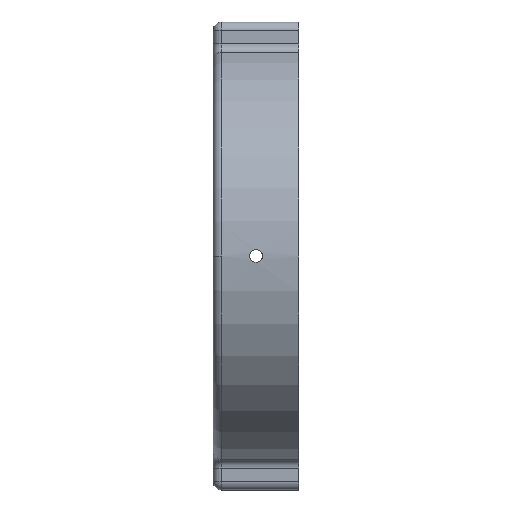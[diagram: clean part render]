
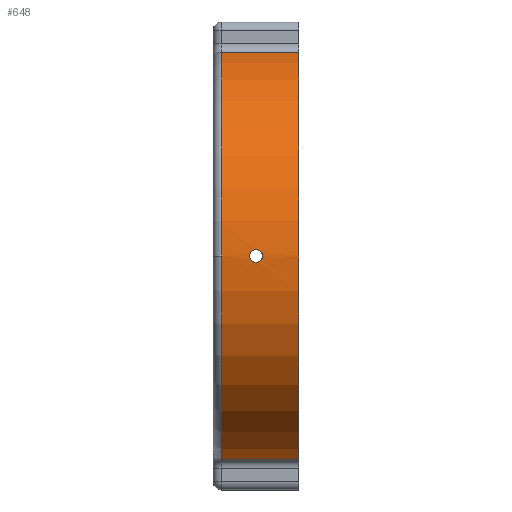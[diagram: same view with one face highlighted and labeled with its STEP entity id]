
A CAD part, left-side view. The second image highlights one B-rep face of the part: STEP entity #648.
In plain terms, the highlighted cylindrical face has radius 49 mm (diameter 98 mm), a partial arc.
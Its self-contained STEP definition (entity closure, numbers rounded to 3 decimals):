
#6 = CARTESIAN_POINT ( 'NONE',  ( -48.978, 10., -1.475 ) ) ;
#20 = FACE_OUTER_BOUND ( 'NONE', #483, .T. ) ;
#22 = CARTESIAN_POINT ( 'NONE',  ( -48.978, 10., 1.475 ) ) ;
#27 = EDGE_CURVE ( 'NONE', #1283, #1424, #598, .T. ) ;
#57 = CARTESIAN_POINT ( 'NONE',  ( -48.999, 8.564, 0.387 ) ) ;
#61 = CARTESIAN_POINT ( 'NONE',  ( -49., 18., 0. ) ) ;
#77 = CARTESIAN_POINT ( 'NONE',  ( -48.994, 8.72, -0.74 ) ) ;
#88 = CARTESIAN_POINT ( 'NONE',  ( -48.996, 8.675, -0.655 ) ) ;
#90 = CARTESIAN_POINT ( 'NONE',  ( -48.979, 10.382, 1.428 ) ) ;
#101 = CARTESIAN_POINT ( 'NONE',  ( -48.983, 10.739, 1.28 ) ) ;
#103 = VECTOR ( 'NONE', #761, 1000. ) ;
#169 = LINE ( 'NONE', #771, #103 ) ;
#197 = ORIENTED_EDGE ( 'NONE', *, *, #1604, .T. ) ;
#200 = ORIENTED_EDGE ( 'NONE', *, *, #27, .T. ) ;
#217 = CARTESIAN_POINT ( 'NONE',  ( -48.982, 10.654, -1.326 ) ) ;
#230 = CARTESIAN_POINT ( 'NONE',  ( -48.995, 8.711, 0.742 ) ) ;
#233 = CARTESIAN_POINT ( 'NONE',  ( -48.999, 11.436, 0.387 ) ) ;
#243 = CARTESIAN_POINT ( 'NONE',  ( -49., 11.465, -0.193 ) ) ;
#252 = CARTESIAN_POINT ( 'NONE',  ( -48.992, 11.179, 0.907 ) ) ;
#279 = AXIS2_PLACEMENT_3D ( 'NONE', #1104, #1113, #1235 ) ;
#396 = CARTESIAN_POINT ( 'NONE',  ( 0., 18., 0. ) ) ;
#403 = CARTESIAN_POINT ( 'NONE',  ( -12.131, 0., -47.475 ) ) ;
#422 = CARTESIAN_POINT ( 'NONE',  ( -12.131, 0., 47.475 ) ) ;
#424 = AXIS2_PLACEMENT_3D ( 'NONE', #396, #1119, #1554 ) ;
#437 = EDGE_CURVE ( 'NONE', #1424, #1283, #511, .T. ) ;
#462 = CYLINDRICAL_SURFACE ( 'NONE', #1858, 49. ) ;
#479 = LINE ( 'NONE', #1241, #1778 ) ;
#483 = EDGE_LOOP ( 'NONE', ( #197, #1841, #595, #574, #1063 ) ) ;
#487 = CARTESIAN_POINT ( 'NONE',  ( 0., 0., 0. ) ) ;
#506 = CARTESIAN_POINT ( 'NONE',  ( -48.978, 10., 1.475 ) ) ;
#511 = B_SPLINE_CURVE_WITH_KNOTS ( 'NONE', 3,
 ( #818, #1114, #1380, #1572, #524, #1106, #1865, #791, #230, #57, #1705, #941, #1398, #1408, #1096, #88, #77, #1276, #673, #1267, #514, #533, #971, #643 ),
 .UNSPECIFIED., .F., .F.,
 ( 4, 2, 2, 2, 2, 2, 2, 2, 2, 2, 2, 4 ),
 ( 0.007, 0.007, 0.008, 0.008, 0.009, 0.009, 0.01, 0.01, 0.01, 0.01, 0.011, 0.012 ),
 .UNSPECIFIED. ) ;
#514 = CARTESIAN_POINT ( 'NONE',  ( -48.983, 9.259, -1.289 ) ) ;
#524 = CARTESIAN_POINT ( 'NONE',  ( -48.983, 9.261, 1.28 ) ) ;
#533 = CARTESIAN_POINT ( 'NONE',  ( -48.979, 9.614, -1.436 ) ) ;
#539 = VERTEX_POINT ( 'NONE', #422 ) ;
#566 = ORIENTED_EDGE ( 'NONE', *, *, #437, .T. ) ;
#574 = ORIENTED_EDGE ( 'NONE', *, *, #662, .T. ) ;
#595 = ORIENTED_EDGE ( 'NONE', *, *, #813, .T. ) ;
#598 = B_SPLINE_CURVE_WITH_KNOTS ( 'NONE', 3,
 ( #699, #1098, #961, #1108, #820, #217, #1553, #655, #1118, #1421, #973, #1565, #1707, #243, #1697, #675, #233, #1848, #252, #1410, #831, #101, #1676, #1287, #90, #1269, #1575, #506 ),
 .UNSPECIFIED., .F., .F.,
 ( 4, 2, 2, 2, 2, 2, 2, 2, 2, 2, 2, 2, 2, 4 ),
 ( 0.002, 0.003, 0.003, 0.003, 0.003, 0.004, 0.004, 0.005, 0.005, 0.006, 0.006, 0.006, 0.007, 0.007 ),
 .UNSPECIFIED. ) ;
#643 = CARTESIAN_POINT ( 'NONE',  ( -48.978, 10., -1.475 ) ) ;
#648 = ADVANCED_FACE ( 'NONE', ( #1797, #20 ), #462, .T. ) ;
#655 = CARTESIAN_POINT ( 'NONE',  ( -48.986, 10.9, -1.173 ) ) ;
#662 = EDGE_CURVE ( 'NONE', #1301, #1561, #169, .T. ) ;
#673 = CARTESIAN_POINT ( 'NONE',  ( -48.99, 8.89, -0.976 ) ) ;
#675 = CARTESIAN_POINT ( 'NONE',  ( -49., 11.475, 0.193 ) ) ;
#699 = CARTESIAN_POINT ( 'NONE',  ( -48.978, 10., -1.475 ) ) ;
#761 = DIRECTION ( 'NONE',  ( 0., -1., 0. ) ) ;
#771 = CARTESIAN_POINT ( 'NONE',  ( -12.131, 20., -47.475 ) ) ;
#791 = CARTESIAN_POINT ( 'NONE',  ( -48.992, 8.821, 0.907 ) ) ;
#813 = EDGE_CURVE ( 'NONE', #987, #1301, #1105, .T. ) ;
#818 = CARTESIAN_POINT ( 'NONE',  ( -48.978, 10., 1.475 ) ) ;
#820 = CARTESIAN_POINT ( 'NONE',  ( -48.98, 10.475, -1.4 ) ) ;
#831 = CARTESIAN_POINT ( 'NONE',  ( -48.986, 10.899, 1.173 ) ) ;
#885 = DIRECTION ( 'NONE',  ( 0., -1., 0. ) ) ;
#924 = CARTESIAN_POINT ( 'NONE',  ( 0., 20., 0. ) ) ;
#927 = AXIS2_PLACEMENT_3D ( 'NONE', #487, #1677, #1802 ) ;
#941 = CARTESIAN_POINT ( 'NONE',  ( -49., 8.525, -0.099 ) ) ;
#961 = CARTESIAN_POINT ( 'NONE',  ( -48.978, 10.194, -1.465 ) ) ;
#971 = CARTESIAN_POINT ( 'NONE',  ( -48.978, 9.808, -1.475 ) ) ;
#973 = CARTESIAN_POINT ( 'NONE',  ( -48.995, 11.289, -0.743 ) ) ;
#987 = VERTEX_POINT ( 'NONE', #61 ) ;
#1000 = EDGE_CURVE ( 'NONE', #1561, #539, #1172, .T. ) ;
#1063 = ORIENTED_EDGE ( 'NONE', *, *, #1000, .T. ) ;
#1096 = CARTESIAN_POINT ( 'NONE',  ( -48.998, 8.601, -0.476 ) ) ;
#1098 = CARTESIAN_POINT ( 'NONE',  ( -48.978, 10.096, -1.475 ) ) ;
#1104 = CARTESIAN_POINT ( 'NONE',  ( 0., 18., 0. ) ) ;
#1105 = CIRCLE ( 'NONE', #279, 49. ) ;
#1106 = CARTESIAN_POINT ( 'NONE',  ( -48.986, 9.101, 1.173 ) ) ;
#1108 = CARTESIAN_POINT ( 'NONE',  ( -48.979, 10.383, -1.428 ) ) ;
#1113 = DIRECTION ( 'NONE',  ( 0., -1., 0. ) ) ;
#1114 = CARTESIAN_POINT ( 'NONE',  ( -48.978, 9.805, 1.475 ) ) ;
#1118 = CARTESIAN_POINT ( 'NONE',  ( -48.987, 10.974, -1.112 ) ) ;
#1119 = DIRECTION ( 'NONE',  ( 0., -1., 0. ) ) ;
#1172 = CIRCLE ( 'NONE', #927, 49. ) ;
#1175 = EDGE_CURVE ( 'NONE', #1238, #987, #1876, .T. ) ;
#1225 = DIRECTION ( 'NONE',  ( 0., 0., -1. ) ) ;
#1228 = CARTESIAN_POINT ( 'NONE',  ( -12.131, 18., -47.475 ) ) ;
#1235 = DIRECTION ( 'NONE',  ( 0., 0., 1. ) ) ;
#1238 = VERTEX_POINT ( 'NONE', #1742 ) ;
#1241 = CARTESIAN_POINT ( 'NONE',  ( -12.131, 20., 47.475 ) ) ;
#1267 = CARTESIAN_POINT ( 'NONE',  ( -48.986, 9.094, -1.18 ) ) ;
#1269 = CARTESIAN_POINT ( 'NONE',  ( -48.978, 10.193, 1.465 ) ) ;
#1276 = CARTESIAN_POINT ( 'NONE',  ( -48.992, 8.827, -0.9 ) ) ;
#1283 = VERTEX_POINT ( 'NONE', #6 ) ;
#1287 = CARTESIAN_POINT ( 'NONE',  ( -48.98, 10.476, 1.4 ) ) ;
#1301 = VERTEX_POINT ( 'NONE', #1228 ) ;
#1380 = CARTESIAN_POINT ( 'NONE',  ( -48.979, 9.614, 1.437 ) ) ;
#1398 = CARTESIAN_POINT ( 'NONE',  ( -49., 8.535, -0.194 ) ) ;
#1408 = CARTESIAN_POINT ( 'NONE',  ( -48.999, 8.572, -0.383 ) ) ;
#1410 = CARTESIAN_POINT ( 'NONE',  ( -48.987, 10.975, 1.111 ) ) ;
#1421 = CARTESIAN_POINT ( 'NONE',  ( -48.992, 11.181, -0.905 ) ) ;
#1424 = VERTEX_POINT ( 'NONE', #22 ) ;
#1553 = CARTESIAN_POINT ( 'NONE',  ( -48.983, 10.74, -1.28 ) ) ;
#1554 = DIRECTION ( 'NONE',  ( 0., 0., 1. ) ) ;
#1561 = VERTEX_POINT ( 'NONE', #403 ) ;
#1565 = CARTESIAN_POINT ( 'NONE',  ( -48.998, 11.4, -0.474 ) ) ;
#1572 = CARTESIAN_POINT ( 'NONE',  ( -48.982, 9.346, 1.326 ) ) ;
#1575 = CARTESIAN_POINT ( 'NONE',  ( -48.978, 10.097, 1.475 ) ) ;
#1604 = EDGE_CURVE ( 'NONE', #539, #1238, #479, .T. ) ;
#1676 = CARTESIAN_POINT ( 'NONE',  ( -48.982, 10.654, 1.326 ) ) ;
#1677 = DIRECTION ( 'NONE',  ( 0., 1., 0. ) ) ;
#1697 = CARTESIAN_POINT ( 'NONE',  ( -49., 11.475, -0.096 ) ) ;
#1705 = CARTESIAN_POINT ( 'NONE',  ( -49., 8.525, 0.194 ) ) ;
#1707 = CARTESIAN_POINT ( 'NONE',  ( -48.999, 11.428, -0.382 ) ) ;
#1742 = CARTESIAN_POINT ( 'NONE',  ( -12.131, 18., 47.475 ) ) ;
#1778 = VECTOR ( 'NONE', #1840, 1000. ) ;
#1797 = FACE_BOUND ( 'NONE', #1872, .T. ) ;
#1802 = DIRECTION ( 'NONE',  ( 0., 0., 1. ) ) ;
#1840 = DIRECTION ( 'NONE',  ( 0., 1., 0. ) ) ;
#1841 = ORIENTED_EDGE ( 'NONE', *, *, #1175, .T. ) ;
#1848 = CARTESIAN_POINT ( 'NONE',  ( -48.995, 11.289, 0.742 ) ) ;
#1858 = AXIS2_PLACEMENT_3D ( 'NONE', #924, #885, #1225 ) ;
#1865 = CARTESIAN_POINT ( 'NONE',  ( -48.987, 9.025, 1.111 ) ) ;
#1872 = EDGE_LOOP ( 'NONE', ( #200, #566 ) ) ;
#1876 = CIRCLE ( 'NONE', #424, 49. ) ;
